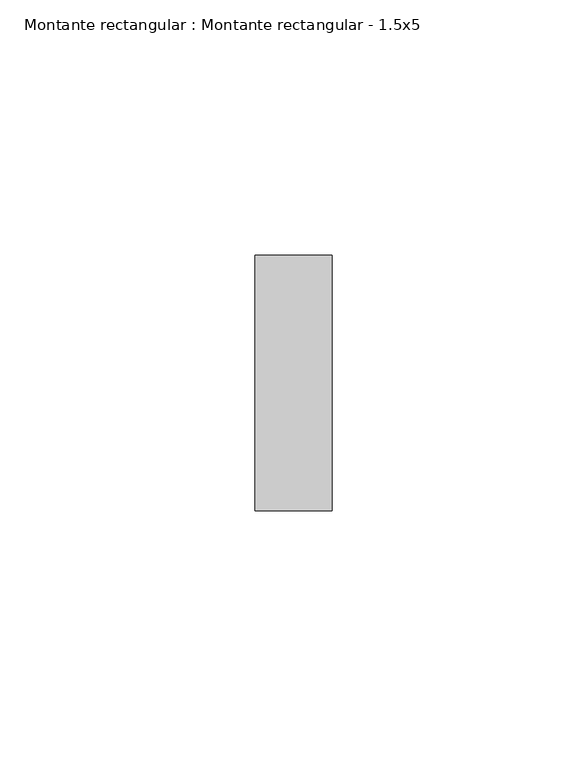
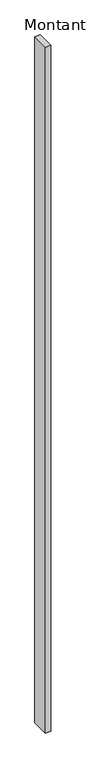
"""IFC4 building model written with IfcOpenShell, lengths in millimetres: member geometry, Montante rectangular : Montante rectangular - 1.5x5."""

from ifc_helpers import new_model, si_unit, frame, origin, place, context, project, spatial, polyline, outline, extrude, source, transform, mapped, element, save


def montante_rectangular_montante_rectangular_1_5x5_bb02bb6d(model_context):
    return source(origin(), model_context, "Body", "SweptSolid", [
        extrude(outline(polyline([(7.5, 25.0), (7.5, -25.0), (-7.5, -25.0), (-7.5, 25.0), (7.5, 25.0)])), frame((0.0, 0.0, -1986.1965314), z_axis=(0.0, 0.0, 1.0), x_axis=(1.0, 0.0, 0.0)), (0.0, 0.0, 1.0), 1986.1965314),
    ])


if __name__ == "__main__":
    model = new_model("IFC4")
    model_context = context("Model", 3, world=origin())
    ifc_project = project(units=[si_unit("LENGTHUNIT", "METRE", prefix="MILLI")], contexts=[model_context])
    site = spatial("IfcSite", under=ifc_project)
    building = spatial("IfcBuilding", under=site)
    placement = place(None, origin())
    montante_rectangular_montante_rectangular_1_5x5_shape = montante_rectangular_montante_rectangular_1_5x5_bb02bb6d(model_context)
    element("IfcMember", 1, ObjectType="Montante rectangular : Montante rectangular - 1.5x5", at=placement, inside=building, context=model_context, shape_type="MappedRepresentation", body=[
        mapped(montante_rectangular_montante_rectangular_1_5x5_shape, transform((0.0, 0.0, 0.0), x_axis=(1.0, 0.0, 0.0), y_axis=(0.0, 1.0, 0.0), z_axis=(0.0, 0.0, 1.0))),
    ])
    save(model, "model.ifc")
